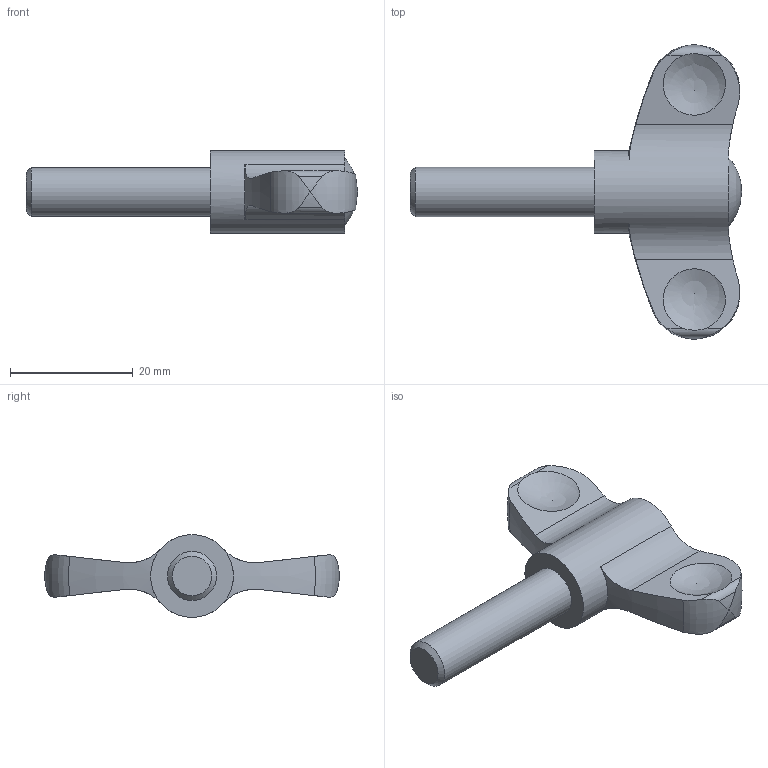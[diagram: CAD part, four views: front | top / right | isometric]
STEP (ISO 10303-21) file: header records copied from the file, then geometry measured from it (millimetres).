
FILE_DESCRIPTION( ( 'STEP AP203' ), '1' );
FILE_NAME( 'C:/Temp/Ganter_Step_05_03_2020/data/2_2/gn_633/Wing nut GN 633-48-M8-30-DGB.stp', '2020-03-05T12:20:48', ( 'License CC BY-ND 4.0' ), ( 'CADENAS' ), ' ', 'PARTsolutions', ' ' );
FILE_SCHEMA( ( 'CONFIG_CONTROL_DESIGN' ) );
Length unit declared in the file: millimetre
Products named in the file (1): _Wing nut GN 633-48-M8-30-DGB
Bounding box: 54 x 48 x 13.5 mm (x, y, z)
Volume: 7194.5 mm3; surface area: 3290.4 mm2
Topology: 1 solids, 1 shells, 33 faces, 102 edges, 68 vertices
Faces by surface type: cylinder 14, sphere 7, plane 7, bspline 2, torus 2, cone 1
Full cylindrical faces by diameter (mm): 8 x1, 13.5 x1
Entity records: 1450 total; most frequent: CARTESIAN_POINT 638, ORIENTED_EDGE 166, DIRECTION 138, EDGE_CURVE 83, VERTEX_POINT 63, AXIS2_PLACEMENT_3D 59, EDGE_LOOP 38, B_SPLINE_CURVE_WITH_KNOTS 36
